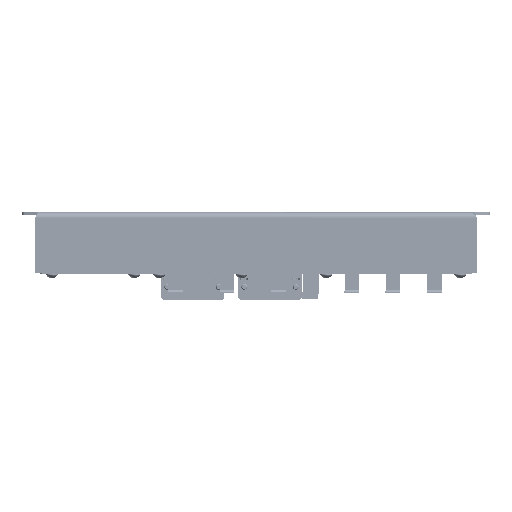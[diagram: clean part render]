
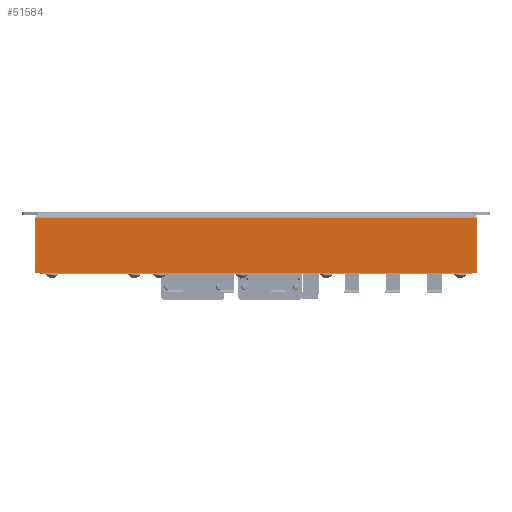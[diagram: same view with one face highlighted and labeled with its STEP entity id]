
A CAD part, left-side view. The second image highlights one B-rep face of the part: STEP entity #51584.
In plain terms, the highlighted planar face has unit normal (-1, 0, 0) as drawn and (0, 0, -1) by its records, which use the part's own axes.
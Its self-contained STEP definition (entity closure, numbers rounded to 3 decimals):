
#51584 = ADVANCED_FACE ( 'NONE', ( #97386 ), #104207, .F. ) ;
#57970 = AXIS2_PLACEMENT_3D ( 'NONE', #104210, #104219, #104220 ) ;
#67839 = CARTESIAN_POINT ( 'NONE',  ( 107., 28., -61.7 ) ) ;
#67841 = CARTESIAN_POINT ( 'NONE',  ( -107., 28., -61.7 ) ) ;
#67847 = CARTESIAN_POINT ( 'NONE',  ( 107., 1.5, -61.7 ) ) ;
#67849 = CARTESIAN_POINT ( 'NONE',  ( -107., 1.5, -61.7 ) ) ;
#72120 = ORIENTED_EDGE ( 'NONE', *, *, #170210, .F. ) ;
#72137 = ORIENTED_EDGE ( 'NONE', *, *, #170214, .T. ) ;
#72139 = ORIENTED_EDGE ( 'NONE', *, *, #170215, .F. ) ;
#72141 = ORIENTED_EDGE ( 'NONE', *, *, #170193, .T. ) ;
#97386 = FACE_OUTER_BOUND ( 'NONE', #115979, .T. ) ;
#104207 = PLANE ( 'NONE',  #57970 ) ;
#104210 = CARTESIAN_POINT ( 'NONE',  ( -104., 0., -61.7 ) ) ;
#104219 = DIRECTION ( 'NONE',  ( 0., 0., 1. ) ) ;
#104220 = DIRECTION ( 'NONE',  ( 0., -1., 0. ) ) ;
#110465 = LINE ( 'NONE', #112207, #110489 ) ;
#110489 = VECTOR ( 'NONE', #112209, 1000. ) ;
#110529 = LINE ( 'NONE', #112273, #110531 ) ;
#110531 = VECTOR ( 'NONE', #112277, 1000. ) ;
#110534 = LINE ( 'NONE', #112294, #110536 ) ;
#110536 = VECTOR ( 'NONE', #112295, 1000. ) ;
#110538 = LINE ( 'NONE', #112297, #110540 ) ;
#110540 = VECTOR ( 'NONE', #112298, 1000. ) ;
#112207 = CARTESIAN_POINT ( 'NONE',  ( 104., 28., -61.7 ) ) ;
#112209 = DIRECTION ( 'NONE',  ( 1., 0., 0. ) ) ;
#112273 = CARTESIAN_POINT ( 'NONE',  ( 107., 1.5, -61.7 ) ) ;
#112277 = DIRECTION ( 'NONE',  ( 0., 1., 0. ) ) ;
#112294 = CARTESIAN_POINT ( 'NONE',  ( -107., 1.5, -61.7 ) ) ;
#112295 = DIRECTION ( 'NONE',  ( 0., 1., 0. ) ) ;
#112297 = CARTESIAN_POINT ( 'NONE',  ( -104., 1.5, -61.7 ) ) ;
#112298 = DIRECTION ( 'NONE',  ( 1., 0., 0. ) ) ;
#115979 = EDGE_LOOP ( 'NONE', ( #72139, #72137, #72141, #72120 ) ) ;
#158666 = VERTEX_POINT ( 'NONE', #67839 ) ;
#158668 = VERTEX_POINT ( 'NONE', #67841 ) ;
#158674 = VERTEX_POINT ( 'NONE', #67847 ) ;
#158676 = VERTEX_POINT ( 'NONE', #67849 ) ;
#170193 = EDGE_CURVE ( 'NONE', #158668, #158666, #110465, .T. ) ;
#170210 = EDGE_CURVE ( 'NONE', #158674, #158666, #110529, .T. ) ;
#170214 = EDGE_CURVE ( 'NONE', #158676, #158668, #110534, .T. ) ;
#170215 = EDGE_CURVE ( 'NONE', #158676, #158674, #110538, .T. ) ;
